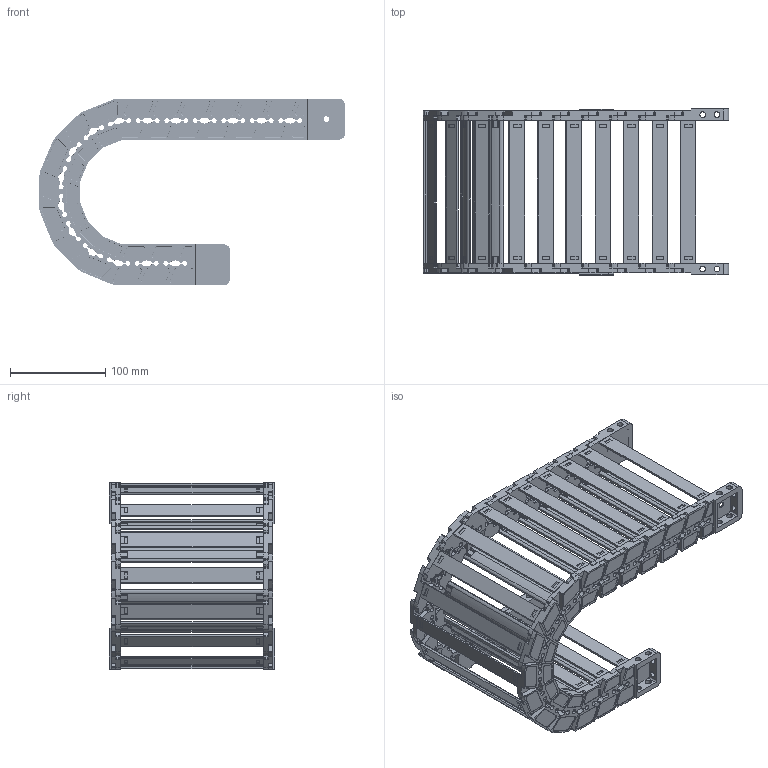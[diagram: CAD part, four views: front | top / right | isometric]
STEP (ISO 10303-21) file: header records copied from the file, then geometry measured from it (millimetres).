
FILE_DESCRIPTION((''),'2;1');
FILE_NAME('JY-35X150-R75_ASM','2025-01-05T19:11:38',('admin'),(''),'CREO PARAMETRIC BY PTC INC, 2021023','CREO PARAMETRIC BY PTC INC, 2021023','');
FILE_SCHEMA(('CONFIG_CONTROL_DESIGN'));
Length unit declared in the file: millimetre
Products named in the file (11): 35XL-L; YP; 35XL-R; ASM0001_ASM; 35-LTT-A-L; 35-LTT-A-R; 35XL-LTT-A_ASM; 35-LTT-B-L; 35-LTT-B-R; 35XL-LTT-B_ASM; JY-35X150-R75_ASM
Assembly tree (29 placements, depth 3):
  JY-35X150-R75_ASM
    ASM0001_ASM  x15
      35XL-L
      YP
      35XL-R
    35XL-LTT-A_ASM
      35-LTT-A-L
      YP  x2
      35-LTT-A-R
    35XL-LTT-B_ASM
      35-LTT-B-L
      YP  x2
      35-LTT-B-R
Bounding box: 321.72 x 174.5 x 196.34 mm (x, y, z)
Volume: 633503.8 mm3; surface area: 393386.3 mm2
Topology: 68 solids, 68 shells, 5536 faces, 16584 edges, 11192 vertices
Faces by surface type: plane 3130, cylinder 1830, cone 352, extrusion 128, bspline 96
Entity records: 27842 total; most frequent: CARTESIAN_POINT 6162, ORIENTED_EDGE 4640, DIRECTION 4353, EDGE_CURVE 2320, VERTEX_POINT 1568, AXIS2_PLACEMENT_3D 1468, VECTOR 1417, LINE 1401
